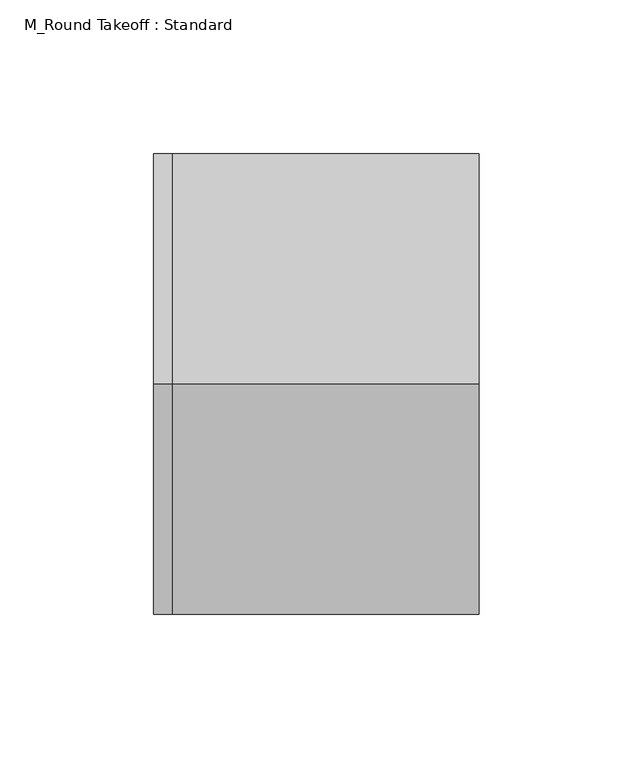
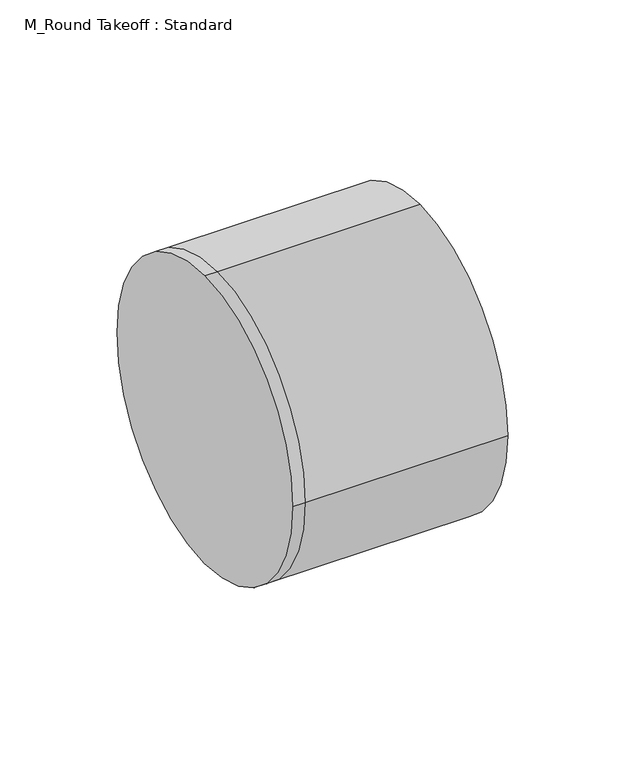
"""IFC4 building model written with IfcOpenShell, lengths in millimetres: duct fitting geometry, M_Round Takeoff : Standard."""

from ifc_helpers import new_model, si_unit, frame, origin, place, context, project, spatial, circle_curve, source, transform, mapped, element, save
from ifc_brep_helpers import plane_surface, cylinder_surface, advanced_brep


def m_round_takeoff_standard_a4207b6c(model_context):
    return source(origin(), model_context, "Body", "AdvancedBrep", [
        advanced_brep(
        [(-6.0962374, 0.0, 75.0), (-6.0962374, 75.0, 0.0), (-6.0962374, 0.0, -75.0), (-6.0962374, -75.0, 0.0), (0.0, 0.0, 75.0), (0.0, 75.0, 0.0), (0.0, 0.0, -75.0), (0.0, -75.0, 0.0), (100.0002374, 0.0, 75.0), (100.0002374, -75.0, 0.0), (100.0002374, 0.0, -75.0), (100.0002374, 75.0, 0.0)],
        [
            (0, 1, circle_curve(frame((-6.0962374, 0.0, 0.0), z_axis=(-1.0, 0.0, 0.0), x_axis=(0.0, 1.0, 0.0)), 75.0)),
            (1, 2, circle_curve(frame((-6.0962374, 0.0, 0.0), z_axis=(-1.0, 0.0, 0.0), x_axis=(0.0, 1.0, 0.0)), 75.0)),
            (2, 3, circle_curve(frame((-6.0962374, 0.0, 0.0), z_axis=(-1.0, 0.0, 0.0), x_axis=(0.0, 1.0, 0.0)), 75.0)),
            (3, 0, circle_curve(frame((-6.0962374, 0.0, 0.0), z_axis=(-1.0, 0.0, 0.0), x_axis=(0.0, 1.0, 0.0)), 75.0)),
            (0, 4),
            (4, 5, circle_curve(frame((0.0, 0.0, 0.0), z_axis=(-1.0, 0.0, 0.0), x_axis=(0.0, 1.0, 0.0)), 75.0)),
            (5, 1),
            (5, 6, circle_curve(frame((0.0, 0.0, 0.0), z_axis=(-1.0, 0.0, 0.0), x_axis=(0.0, 1.0, 0.0)), 75.0)),
            (6, 2),
            (6, 7, circle_curve(frame((0.0, 0.0, 0.0), z_axis=(-1.0, 0.0, 0.0), x_axis=(0.0, 1.0, 0.0)), 75.0)),
            (7, 3),
            (7, 4, circle_curve(frame((0.0, 0.0, 0.0), z_axis=(-1.0, 0.0, 0.0), x_axis=(0.0, 1.0, 0.0)), 75.0)),
            (8, 9, circle_curve(frame((100.0002374, 0.0, 0.0), z_axis=(1.0, 0.0, 0.0), x_axis=(0.0, 1.0, 0.0)), 75.0)),
            (9, 10, circle_curve(frame((100.0002374, 0.0, 0.0), z_axis=(1.0, 0.0, 0.0), x_axis=(0.0, 1.0, 0.0)), 75.0)),
            (10, 11, circle_curve(frame((100.0002374, 0.0, 0.0), z_axis=(1.0, 0.0, 0.0), x_axis=(0.0, 1.0, 0.0)), 75.0)),
            (11, 8, circle_curve(frame((100.0002374, 0.0, 0.0), z_axis=(1.0, 0.0, 0.0), x_axis=(0.0, 1.0, 0.0)), 75.0)),
            (11, 5),
            (4, 8),
            (10, 6),
            (9, 7),
        ],
        [
            plane_surface(frame((-6.0962374, 0.0, 0.0), z_axis=(-1.0, 0.0, 0.0), x_axis=(0.0, 0.0, 1.0))),
            cylinder_surface(frame((-6.0962374, 0.0, 0.0), z_axis=(-1.0, 0.0, 0.0), x_axis=(0.0, 1.0, 0.0)), 75.0),
            plane_surface(frame((100.0002374, 0.0, 0.0), z_axis=(1.0, 0.0, 0.0), x_axis=(0.0, 0.0, 1.0))),
            cylinder_surface(frame((0.0, 0.0, 0.0), z_axis=(-1.0, 0.0, 0.0), x_axis=(0.0, 1.0, 0.0)), 75.0),
        ],
        [
            (0, [[1, 2, 3, 4]]),
            (1, [[-1, 5, 6, 7]]),
            (1, [[-2, -7, 8, 9]]),
            (1, [[-3, -9, 10, 11]]),
            (1, [[-4, -11, 12, -5]]),
            (2, [[13, 14, 15, 16]]),
            (3, [[-16, 17, -6, 18]]),
            (3, [[-15, 19, -8, -17]]),
            (3, [[-14, 20, -10, -19]]),
            (3, [[-13, -18, -12, -20]]),
        ],
    ),
        advanced_brep(
        [(100.0002374, 0.0, 75.0), (100.0002374, -75.0, 0.0), (100.0002374, 0.0, -75.0), (100.0002374, 75.0, 0.0), (0.0, 75.0, 0.0), (0.0, 0.0, 75.0), (0.0, 0.0, -75.0), (0.0, -75.0, 0.0), (-6.0962374, 0.0, 75.0), (-6.0962374, 75.0, 0.0), (-6.0962374, 0.0, -75.0), (-6.0962374, -75.0, 0.0)],
        [
            (0, 1, circle_curve(frame((100.0002374, 0.0, 0.0), z_axis=(1.0, 0.0, 0.0), x_axis=(0.0, 1.0, 0.0)), 75.0)),
            (1, 2, circle_curve(frame((100.0002374, 0.0, 0.0), z_axis=(1.0, 0.0, 0.0), x_axis=(0.0, 1.0, 0.0)), 75.0)),
            (2, 3, circle_curve(frame((100.0002374, 0.0, 0.0), z_axis=(1.0, 0.0, 0.0), x_axis=(0.0, 1.0, 0.0)), 75.0)),
            (3, 0, circle_curve(frame((100.0002374, 0.0, 0.0), z_axis=(1.0, 0.0, 0.0), x_axis=(0.0, 1.0, 0.0)), 75.0)),
            (3, 4),
            (4, 5, circle_curve(frame((0.0, 0.0, 0.0), z_axis=(1.0, 0.0, 0.0), x_axis=(0.0, 1.0, 0.0)), 75.0)),
            (5, 0),
            (2, 6),
            (6, 4, circle_curve(frame((0.0, 0.0, 0.0), z_axis=(1.0, 0.0, 0.0), x_axis=(0.0, 1.0, 0.0)), 75.0)),
            (1, 7),
            (7, 6, circle_curve(frame((0.0, 0.0, 0.0), z_axis=(1.0, 0.0, 0.0), x_axis=(0.0, 1.0, 0.0)), 75.0)),
            (5, 7, circle_curve(frame((0.0, 0.0, 0.0), z_axis=(1.0, 0.0, 0.0), x_axis=(0.0, 1.0, 0.0)), 75.0)),
            (8, 9, circle_curve(frame((-6.0962374, 0.0, 0.0), z_axis=(-1.0, 0.0, 0.0), x_axis=(0.0, 1.0, 0.0)), 75.0)),
            (9, 10, circle_curve(frame((-6.0962374, 0.0, 0.0), z_axis=(-1.0, 0.0, 0.0), x_axis=(0.0, 1.0, 0.0)), 75.0)),
            (10, 11, circle_curve(frame((-6.0962374, 0.0, 0.0), z_axis=(-1.0, 0.0, 0.0), x_axis=(0.0, 1.0, 0.0)), 75.0)),
            (11, 8, circle_curve(frame((-6.0962374, 0.0, 0.0), z_axis=(-1.0, 0.0, 0.0), x_axis=(0.0, 1.0, 0.0)), 75.0)),
            (8, 5),
            (4, 9),
            (6, 10),
            (7, 11),
        ],
        [
            plane_surface(frame((100.0002374, 0.0, 0.0), z_axis=(1.0, 0.0, 0.0), x_axis=(0.0, 0.0, 1.0))),
            cylinder_surface(frame((0.0, 0.0, 0.0), z_axis=(-1.0, 0.0, 0.0), x_axis=(0.0, 1.0, 0.0)), 75.0),
            plane_surface(frame((-6.0962374, 0.0, 0.0), z_axis=(-1.0, 0.0, 0.0), x_axis=(0.0, 0.0, 1.0))),
            cylinder_surface(frame((-6.0962374, 0.0, 0.0), z_axis=(-1.0, 0.0, 0.0), x_axis=(0.0, 1.0, 0.0)), 75.0),
        ],
        [
            (0, [[1, 2, 3, 4]]),
            (1, [[-4, 5, 6, 7]]),
            (1, [[-3, 8, 9, -5]]),
            (1, [[-2, 10, 11, -8]]),
            (1, [[-1, -7, 12, -10]]),
            (2, [[13, 14, 15, 16]]),
            (3, [[-13, 17, -6, 18]]),
            (3, [[-14, -18, -9, 19]]),
            (3, [[-15, -19, -11, 20]]),
            (3, [[-16, -20, -12, -17]]),
        ],
    ),
        advanced_brep(
        [(-6.0962374, 0.0, 75.0), (-6.0962374, 75.0, 0.0), (-6.0962374, 0.0, -75.0), (-6.0962374, -75.0, 0.0), (0.0, 0.0, 75.0), (0.0, 75.0, 0.0), (0.0, 0.0, -75.0), (0.0, -75.0, 0.0), (100.0002374, 0.0, 75.0), (100.0002374, -75.0, 0.0), (100.0002374, 0.0, -75.0), (100.0002374, 75.0, 0.0)],
        [
            (0, 1, circle_curve(frame((-6.0962374, 0.0, 0.0), z_axis=(-1.0, 0.0, 0.0), x_axis=(0.0, 1.0, 0.0)), 75.0)),
            (1, 2, circle_curve(frame((-6.0962374, 0.0, 0.0), z_axis=(-1.0, 0.0, 0.0), x_axis=(0.0, 1.0, 0.0)), 75.0)),
            (2, 3, circle_curve(frame((-6.0962374, 0.0, 0.0), z_axis=(-1.0, 0.0, 0.0), x_axis=(0.0, 1.0, 0.0)), 75.0)),
            (3, 0, circle_curve(frame((-6.0962374, 0.0, 0.0), z_axis=(-1.0, 0.0, 0.0), x_axis=(0.0, 1.0, 0.0)), 75.0)),
            (0, 4),
            (4, 5, circle_curve(frame((0.0, 0.0, 0.0), z_axis=(-1.0, 0.0, 0.0), x_axis=(0.0, 1.0, 0.0)), 75.0)),
            (5, 1),
            (5, 6, circle_curve(frame((0.0, 0.0, 0.0), z_axis=(-1.0, 0.0, 0.0), x_axis=(0.0, 1.0, 0.0)), 75.0)),
            (6, 2),
            (6, 7, circle_curve(frame((0.0, 0.0, 0.0), z_axis=(-1.0, 0.0, 0.0), x_axis=(0.0, 1.0, 0.0)), 75.0)),
            (7, 3),
            (7, 4, circle_curve(frame((0.0, 0.0, 0.0), z_axis=(-1.0, 0.0, 0.0), x_axis=(0.0, 1.0, 0.0)), 75.0)),
            (8, 9, circle_curve(frame((100.0002374, 0.0, 0.0), z_axis=(1.0, 0.0, 0.0), x_axis=(0.0, 1.0, 0.0)), 75.0)),
            (9, 10, circle_curve(frame((100.0002374, 0.0, 0.0), z_axis=(1.0, 0.0, 0.0), x_axis=(0.0, 1.0, 0.0)), 75.0)),
            (10, 11, circle_curve(frame((100.0002374, 0.0, 0.0), z_axis=(1.0, 0.0, 0.0), x_axis=(0.0, 1.0, 0.0)), 75.0)),
            (11, 8, circle_curve(frame((100.0002374, 0.0, 0.0), z_axis=(1.0, 0.0, 0.0), x_axis=(0.0, 1.0, 0.0)), 75.0)),
            (11, 5),
            (4, 8),
            (10, 6),
            (9, 7),
        ],
        [
            plane_surface(frame((-6.0962374, 0.0, 0.0), z_axis=(-1.0, 0.0, 0.0), x_axis=(0.0, 0.0, 1.0))),
            cylinder_surface(frame((-6.0962374, 0.0, 0.0), z_axis=(-1.0, 0.0, 0.0), x_axis=(0.0, 1.0, 0.0)), 75.0),
            plane_surface(frame((100.0002374, 0.0, 0.0), z_axis=(1.0, 0.0, 0.0), x_axis=(0.0, 0.0, 1.0))),
            cylinder_surface(frame((0.0, 0.0, 0.0), z_axis=(-1.0, 0.0, 0.0), x_axis=(0.0, 1.0, 0.0)), 75.0),
        ],
        [
            (0, [[1, 2, 3, 4]]),
            (1, [[-1, 5, 6, 7]]),
            (1, [[-2, -7, 8, 9]]),
            (1, [[-3, -9, 10, 11]]),
            (1, [[-4, -11, 12, -5]]),
            (2, [[13, 14, 15, 16]]),
            (3, [[-16, 17, -6, 18]]),
            (3, [[-15, 19, -8, -17]]),
            (3, [[-14, 20, -10, -19]]),
            (3, [[-13, -18, -12, -20]]),
        ],
    ),
    ])


if __name__ == "__main__":
    model = new_model("IFC4")
    model_context = context("Model", 3, world=origin())
    ifc_project = project(units=[si_unit("LENGTHUNIT", "METRE", prefix="MILLI")], contexts=[model_context])
    site = spatial("IfcSite", under=ifc_project)
    building = spatial("IfcBuilding", under=site)
    placement = place(None, origin())
    m_round_takeoff_standard_shape = m_round_takeoff_standard_a4207b6c(model_context)
    element("IfcDuctFitting", 1, ObjectType="M_Round Takeoff : Standard", at=placement, inside=building, context=model_context, shape_type="MappedRepresentation", body=[
        mapped(m_round_takeoff_standard_shape, transform((0.0, 0.0, 0.0), x_axis=(1.0, 0.0, 0.0), y_axis=(0.0, 1.0, 0.0), z_axis=(0.0, 0.0, 1.0))),
    ])
    save(model, "model.ifc")
